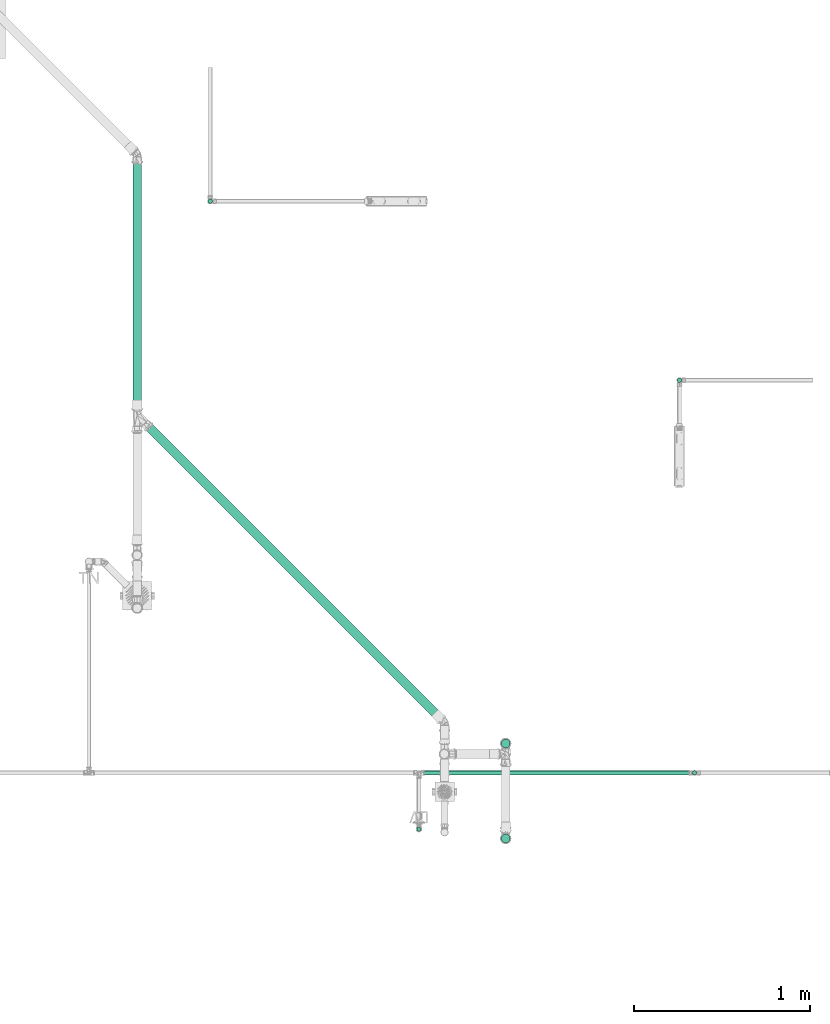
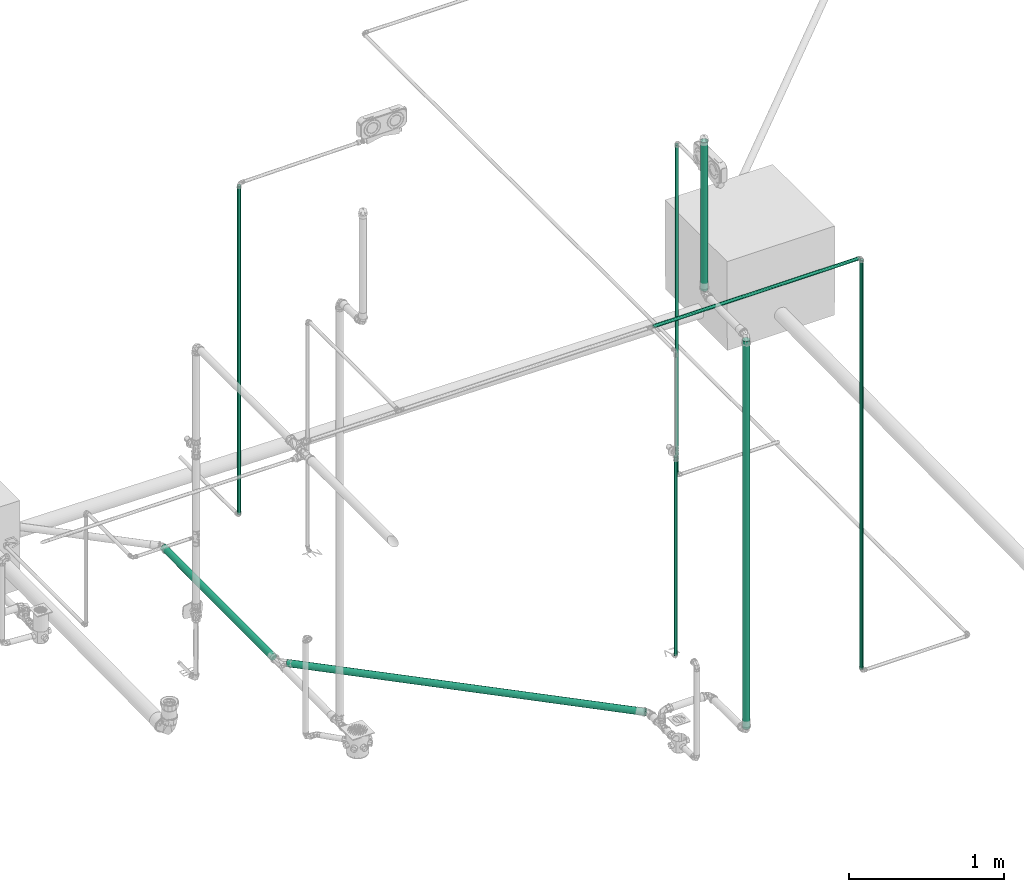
# One storey, part 18 of 589: 9 flow segments.
"""IFC2X3 building model written with IfcOpenShell, lengths in millimetres."""

from ifc_helpers import new_model, entity, si_unit, converted_unit, derived_unit, direction, frame, frame_2d, origin, origin_2d_with_axis, place, context, subcontext, project, spatial, circle, extrude, type_object, element, save


model = new_model("IFC2X3")

# Units and contexts
model_context = context("Model", 3, precision=0.01, world=origin(), true_north=direction((6.123031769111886e-17, 1.0)))
body_context = subcontext(model_context, "Body", "Model", "MODEL_VIEW")
ifc_project = project(units=[si_unit("LENGTHUNIT", "METRE", prefix="MILLI"), si_unit("AREAUNIT", "SQUARE_METRE"), si_unit("VOLUMEUNIT", "CUBIC_METRE"), converted_unit("PLANEANGLEUNIT", "DEGREE", entity("IfcRatioMeasure", 0.017453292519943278), si_unit("PLANEANGLEUNIT", "RADIAN"), dimensions=[0, 0, 0, 0, 0, 0, 0]), si_unit("MASSUNIT", "GRAM", prefix="KILO"), derived_unit("MASSDENSITYUNIT", [(si_unit("MASSUNIT", "GRAM", prefix="KILO"), 1), (si_unit("LENGTHUNIT", "METRE"), -3)]), derived_unit("IONCONCENTRATIONUNIT", [(si_unit("MASSUNIT", "GRAM", prefix="KILO"), 1), (si_unit("LENGTHUNIT", "METRE"), -3)]), derived_unit("MOMENTOFINERTIAUNIT", [(si_unit("LENGTHUNIT", "METRE"), 4)]), si_unit("TIMEUNIT", "SECOND"), si_unit("FREQUENCYUNIT", "HERTZ"), si_unit("THERMODYNAMICTEMPERATUREUNIT", "DEGREE_CELSIUS"), derived_unit("THERMALTRANSMITTANCEUNIT", [(si_unit("MASSUNIT", "GRAM", prefix="KILO"), 1), (si_unit("THERMODYNAMICTEMPERATUREUNIT", "KELVIN"), -1), (si_unit("TIMEUNIT", "SECOND"), -3)]), derived_unit("THERMALCONDUCTANCEUNIT", [(si_unit("MASSUNIT", "GRAM", prefix="KILO"), 1), (si_unit("THERMODYNAMICTEMPERATUREUNIT", "KELVIN"), -1), (si_unit("TIMEUNIT", "SECOND"), -3), (si_unit("LENGTHUNIT", "METRE"), 1)]), derived_unit("VOLUMETRICFLOWRATEUNIT", [(si_unit("LENGTHUNIT", "METRE"), 3), (si_unit("TIMEUNIT", "SECOND"), -1)]), derived_unit("MASSFLOWRATEUNIT", [(si_unit("MASSUNIT", "GRAM", prefix="KILO"), 1), (si_unit("TIMEUNIT", "SECOND"), -1)]), derived_unit("ROTATIONALFREQUENCYUNIT", [(si_unit("TIMEUNIT", "SECOND"), -1)]), si_unit("ELECTRICCURRENTUNIT", "AMPERE"), si_unit("ELECTRICVOLTAGEUNIT", "VOLT"), si_unit("POWERUNIT", "WATT"), si_unit("FORCEUNIT", "NEWTON", prefix="KILO"), si_unit("ILLUMINANCEUNIT", "LUX"), si_unit("LUMINOUSFLUXUNIT", "LUMEN"), si_unit("LUMINOUSINTENSITYUNIT", "CANDELA"), derived_unit("USERDEFINED", [(si_unit("MASSUNIT", "GRAM", prefix="KILO"), -1), (si_unit("LENGTHUNIT", "METRE"), -2), (si_unit("TIMEUNIT", "SECOND"), 3), (si_unit("LUMINOUSFLUXUNIT", "LUMEN"), 1)]), derived_unit("USERDEFINED", [(si_unit("MASSUNIT", "GRAM", prefix="KILO"), 1), (si_unit("TIMEUNIT", "SECOND"), -3), (si_unit("LENGTHUNIT", "METRE"), 3), (si_unit("ELECTRICCURRENTUNIT", "AMPERE"), -2)]), derived_unit("SOUNDPOWERUNIT", [(si_unit("MASSUNIT", "GRAM", prefix="KILO"), 1), (si_unit("TIMEUNIT", "SECOND"), -3), (si_unit("LENGTHUNIT", "METRE"), 2)]), derived_unit("SOUNDPRESSUREUNIT", [(si_unit("MASSUNIT", "GRAM", prefix="KILO"), 1), (si_unit("LENGTHUNIT", "METRE"), -1), (si_unit("TIMEUNIT", "SECOND"), -2)]), derived_unit("LINEARVELOCITYUNIT", [(si_unit("LENGTHUNIT", "METRE"), 1), (si_unit("TIMEUNIT", "SECOND"), -1)]), si_unit("PRESSUREUNIT", "PASCAL"), derived_unit("USERDEFINED", [(si_unit("MASSUNIT", "GRAM", prefix="KILO"), 1), (si_unit("LENGTHUNIT", "METRE"), -2), (si_unit("TIMEUNIT", "SECOND"), -2)]), derived_unit("LINEARFORCEUNIT", [(si_unit("MASSUNIT", "GRAM", prefix="KILO"), 1), (si_unit("TIMEUNIT", "SECOND"), -2)]), derived_unit("PLANARFORCEUNIT", [(si_unit("MASSUNIT", "GRAM", prefix="KILO"), 1), (si_unit("LENGTHUNIT", "METRE"), -1), (si_unit("TIMEUNIT", "SECOND"), -2)]), derived_unit("SPECIFICHEATCAPACITYUNIT", [(si_unit("THERMODYNAMICTEMPERATUREUNIT", "KELVIN"), -1), (si_unit("LENGTHUNIT", "METRE"), 2), (si_unit("TIMEUNIT", "SECOND"), -2)]), derived_unit("HEATINGVALUEUNIT", [(si_unit("LENGTHUNIT", "METRE"), 2), (si_unit("TIMEUNIT", "SECOND"), -2)]), derived_unit("VAPORPERMEABILITYUNIT", [(si_unit("LENGTHUNIT", "METRE"), -1), (si_unit("TIMEUNIT", "SECOND"), 1)]), derived_unit("DYNAMICVISCOSITYUNIT", [(si_unit("MASSUNIT", "GRAM", prefix="KILO"), 1), (si_unit("TIMEUNIT", "SECOND"), -1), (si_unit("LENGTHUNIT", "METRE"), -1)]), derived_unit("THERMALEXPANSIONCOEFFICIENTUNIT", [(si_unit("THERMODYNAMICTEMPERATUREUNIT", "KELVIN"), -1)]), derived_unit("MODULUSOFELASTICITYUNIT", [(si_unit("MASSUNIT", "GRAM", prefix="KILO"), 1), (si_unit("LENGTHUNIT", "METRE"), -1), (si_unit("TIMEUNIT", "SECOND"), -2)]), derived_unit("ISOTHERMALMOISTURECAPACITYUNIT", [(si_unit("LENGTHUNIT", "METRE"), 3), (si_unit("MASSUNIT", "GRAM", prefix="KILO"), -1)]), derived_unit("MOISTUREDIFFUSIVITYUNIT", [(si_unit("TIMEUNIT", "SECOND"), -1), (si_unit("LENGTHUNIT", "METRE"), 2)])], contexts=[model_context])

# Site, building, storey
site_placement = place(None, origin())
site = spatial("IfcSite", under=ifc_project, at=site_placement, Name="Default", CompositionType="ELEMENT")
building_placement = place(site_placement, origin())
building = spatial("IfcBuilding", under=site, at=building_placement, CompositionType="ELEMENT")
storey_placement = place(building_placement, frame((0.0, 0.0, 100.0)))
storey = spatial("IfcBuildingStorey", under=building, at=storey_placement, Name="TÉRREO", CompositionType="ELEMENT", Elevation=100.0)

# Flow segments
pipe_segment_type_1 = type_object("IfcPipeSegmentType", Name="Tipos de tubos:PVC Esgoto Série Normal", PredefinedType="NOTDEFINED")
flow_segment_1_placement = place(storey_placement, origin())
element("IfcFlowSegment", 1, at=flow_segment_1_placement, inside=storey, type_object=pipe_segment_type_1, Name="Tipos de tubos:PVC Esgoto Série Normal", ObjectType="Tipos de tubos:PVC Esgoto Série Normal", context=body_context, shape_type="SweptSolid", body=[
    extrude(circle(Radius=25.0, at=frame_2d((0.0, -3.383918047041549e-14), x_axis=(1.0, 0.0))), frame((11656.471838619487, 328.29371046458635, -299.18722805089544), z_axis=(0.0, 0.9999876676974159, 0.004966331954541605), x_axis=(1.0, 0.0, 0.0)), (0.0, 0.0, 1.0), 1409.330182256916),
])
flow_segment_2_placement = place(storey_placement, origin())
element("IfcFlowSegment", 2, at=flow_segment_2_placement, inside=storey, type_object=pipe_segment_type_1, Name="Tipos de tubos:PVC Esgoto Série Normal", ObjectType="Tipos de tubos:PVC Esgoto Série Normal", context=body_context, shape_type="SweptSolid", body=[
    extrude(circle(Radius=25.0, at=frame_2d((2.9351172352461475e-32, 1.6916415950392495e-14), x_axis=(1.0, 0.0))), frame((13391.760519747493, -1464.4928180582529, -251.79729648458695), z_axis=(-0.7070367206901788, 0.7068940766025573, -0.019996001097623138), x_axis=(-0.7070354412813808, -0.7071781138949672, 0.0)), (0.0, 0.0, 1.0), 2391.584294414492),
])
flow_segment_3_placement = place(storey_placement, origin())
element("IfcFlowSegment", 3, at=flow_segment_3_placement, inside=storey, type_object=pipe_segment_type_1, Name="Tipos de tubos:PVC Esgoto Série Normal", ObjectType="Tipos de tubos:PVC Esgoto Série Normal", context=body_context, shape_type="SweptSolid", body=[
    extrude(circle(Radius=25.0, at=frame_2d((0.0, -2.707167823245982e-13), x_axis=(1.0, 0.0))), frame((13750.430163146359, -2133.558771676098, -90.84455273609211), z_axis=(0.0, 0.0, 1.0), x_axis=(-1.0, 0.0, 0.0)), (0.0, 0.0, 1.0), 3048.103252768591),
])
flow_segment_4_placement = place(storey_placement, origin())
element("IfcFlowSegment", 4, at=flow_segment_4_placement, inside=storey, type_object=pipe_segment_type_1, Name="Tipos de tubos:PVC Esgoto Série Normal", ObjectType="Tipos de tubos:PVC Esgoto Série Normal", context=body_context, shape_type="SweptSolid", body=[
    extrude(circle(Radius=25.0, at=frame_2d((2.1657342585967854e-12, 0.0), x_axis=(1.0, 0.0))), frame((13750.348087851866, -1593.558771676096, 3024.5412999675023), z_axis=(0.0, 0.0, 1.0), x_axis=(-1.0, 0.0, 0.0)), (0.0, 0.0, 1.0), 1169.1587000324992),
])
pipe_segment_type_2 = type_object("IfcPipeSegmentType", Name="Tipos de tubos:PVC Marrom Soldável", PredefinedType="NOTDEFINED")
flow_segment_5_placement = place(storey_placement, origin())
element("IfcFlowSegment", 5, at=flow_segment_5_placement, inside=storey, type_object=pipe_segment_type_2, Name="Tipos de tubos:PVC Marrom Soldável", ObjectType="Tipos de tubos:PVC Marrom Soldável", context=body_context, shape_type="SweptSolid", body=[
    extrude(circle(Radius=12.5, at=frame_2d((0.0, 2.707167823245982e-13), x_axis=(1.0, 0.0))), frame((13257.420932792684, -2080.0895013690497, 616.3000000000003), z_axis=(0.0, 0.0, 1.0), x_axis=(-1.0, 0.0, 0.0)), (0.0, 0.0, 1.0), 1563.6999999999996),
])
flow_segment_6_placement = place(storey_placement, origin())
element("IfcFlowSegment", 6, at=flow_segment_6_placement, inside=storey, type_object=pipe_segment_type_2, Name="Tipos de tubos:PVC Marrom Soldável", ObjectType="Tipos de tubos:PVC Marrom Soldável", context=body_context, shape_type="SweptSolid", body=[
    extrude(circle(Radius=12.5, at=frame_2d((0.0, 2.707167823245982e-13), x_axis=(1.0, 0.0))), frame((12071.389049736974, 1487.2074695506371, -21.952537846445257)), (0.0, 0.0, 1.0), 2583.0894217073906),
])
flow_segment_7_placement = place(storey_placement, origin())
element("IfcFlowSegment", 7, at=flow_segment_7_placement, inside=storey, type_object=pipe_segment_type_2, Name="Tipos de tubos:PVC Marrom Soldável", ObjectType="Tipos de tubos:PVC Marrom Soldável", context=body_context, shape_type="SweptSolid", body=[
    extrude(circle(Radius=12.5, at=frame_2d((0.0, -6.284231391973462e-19), x_axis=(1.0, 0.0))), frame((14737.420936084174, 470.3597624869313, -21.95547032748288)), (0.0, 0.0, 1.0), 2589.4087341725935),
])
flow_segment_8_placement = place(storey_placement, origin())
element("IfcFlowSegment", 8, at=flow_segment_8_placement, inside=storey, type_object=pipe_segment_type_2, Name="Tipos de tubos:PVC Marrom Soldável", ObjectType="Tipos de tubos:PVC Marrom Soldável", context=body_context, shape_type="SweptSolid", body=[
    extrude(circle(Radius=12.5, at=origin_2d_with_axis()), frame((14822.720932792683, -1760.7814166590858, -234.60000000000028)), (0.0, 0.0, 1.0), 3219.2000000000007),
])
flow_segment_9_placement = place(storey_placement, origin())
element("IfcFlowSegment", 9, at=flow_segment_9_placement, inside=storey, type_object=pipe_segment_type_2, Name="Tipos de tubos:PVC Marrom Soldável", ObjectType="Tipos de tubos:PVC Marrom Soldável", context=body_context, shape_type="SweptSolid", body=[
    extrude(circle(Radius=12.5, at=frame_2d((-3.5193181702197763e-12, 0.0), x_axis=(1.0, 0.0))), frame((13273.320932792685, -1760.7814166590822, 3000.0), z_axis=(1.0, 0.0, 0.0), x_axis=(0.0, 1.0, 0.0)), (0.0, 0.0, 1.0), 1533.9999999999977),
])

save(model, "model.ifc")
